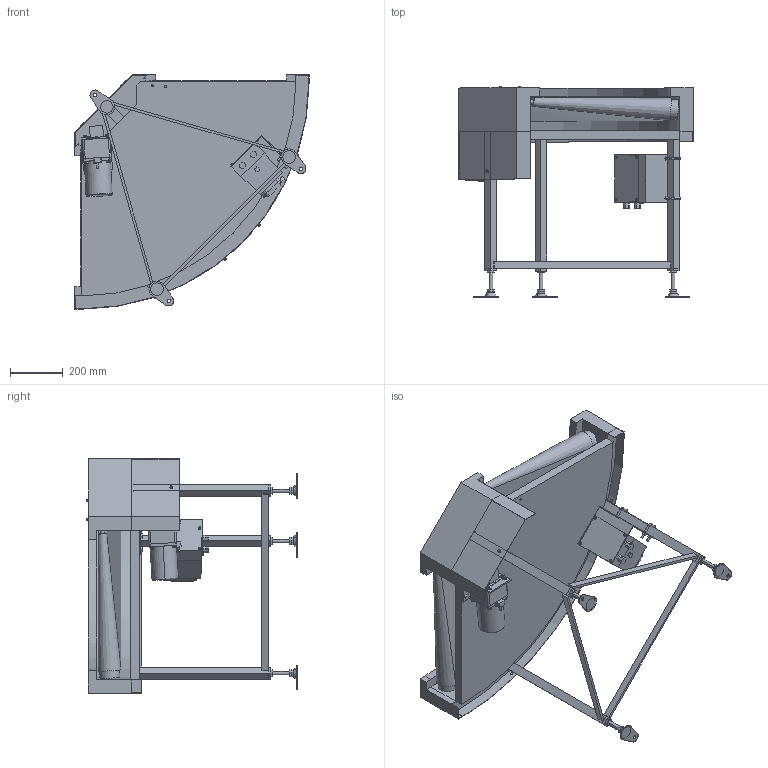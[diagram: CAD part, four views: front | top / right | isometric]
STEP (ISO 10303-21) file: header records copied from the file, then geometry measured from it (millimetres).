
FILE_DESCRIPTION (( 'STEP AP214' ), '1' );
FILE_NAME ('FBC-309-500-90°-L-IV-60.STEP', '2023-03-07T06:26:31', ( '' ), ( '' ), 'SwSTEP 2.0', 'SolidWorks 2017', '' );
FILE_SCHEMA (( 'AUTOMOTIVE_DESIGN' ));
Length unit declared in the file: millimetre
Products named in the file (1): FBC-309-500-90°-L-IV-60
Bounding box: 888 x 797.9 x 888 mm (x, y, z)
Volume: 71798780.1 mm3; surface area: 5005287 mm2
Topology: 40 solids, 41 shells, 1180 faces, 2783 edges, 1780 vertices
Faces by surface type: plane 671, cylinder 370, cone 69, torus 38, bspline 32
Entity records: 37888 total; most frequent: CARTESIAN_POINT 9915, DIRECTION 5779, ORIENTED_EDGE 5534, EDGE_CURVE 2767, AXIS2_PLACEMENT_3D 2039, VERTEX_POINT 1780, VECTOR 1701, LINE 1701
